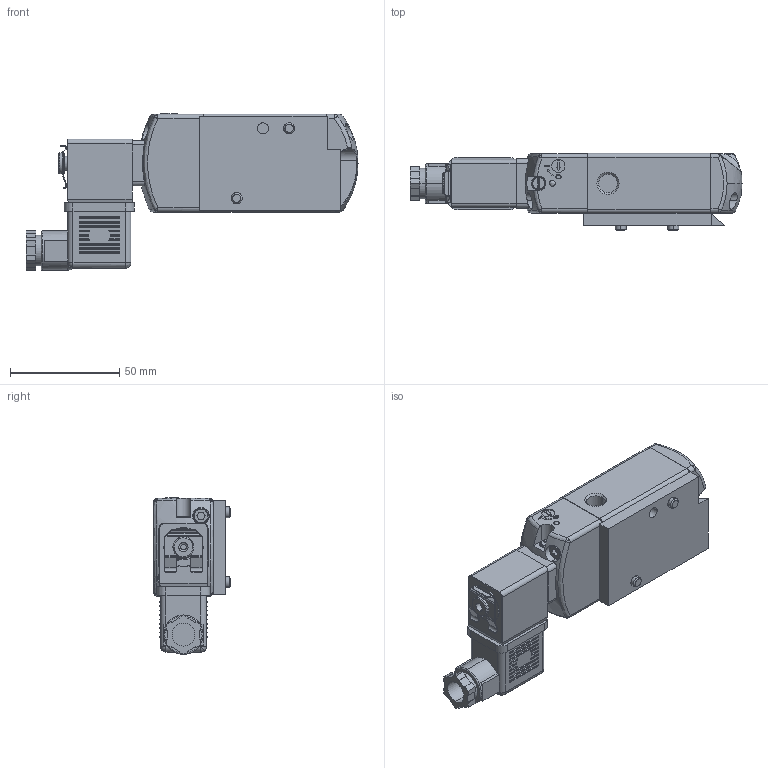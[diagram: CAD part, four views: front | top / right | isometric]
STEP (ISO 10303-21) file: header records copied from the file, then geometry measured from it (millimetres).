
FILE_DESCRIPTION (( 'STEP AP214' ), '1' );
FILE_NAME ('TVC6-X411-4N-XXX.STEP', '2025-05-09T13:32:50', ( '' ), ( '' ), 'SwSTEP 2.0', 'SolidWorks 2023', '' );
FILE_SCHEMA (( 'AUTOMOTIVE_DESIGN' ));
Length unit declared in the file: inch
Products named in the file (3): 18395; TVC6-X411-4N-XXX; 18599
Assembly tree (2 placements, depth 2):
  TVC6-X411-4N-XXX
    18395
    18599
Bounding box: 151.9 x 35.3 x 71.92 mm (x, y, z)
Volume: 167550.8 mm3; surface area: 37891.4 mm2
Topology: 2 solids, 2 shells, 1039 faces, 2684 edges, 1711 vertices
Faces by surface type: plane 594, cylinder 289, bspline 119, cone 36, torus 1
Entity records: 35349 total; most frequent: CARTESIAN_POINT 10647, ORIENTED_EDGE 5294, DIRECTION 4890, EDGE_CURVE 2647, VERTEX_POINT 1711, VECTOR 1700, LINE 1700, AXIS2_PLACEMENT_3D 1595
